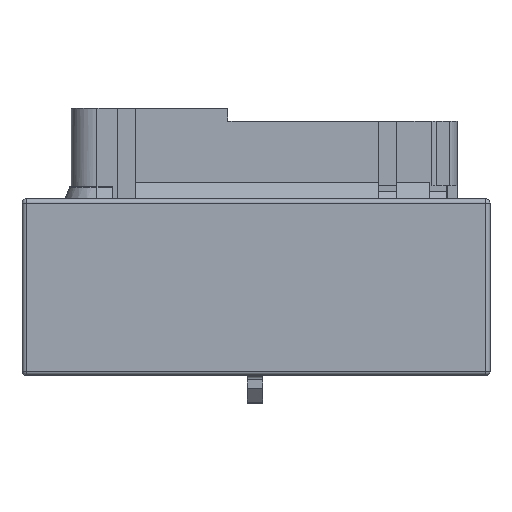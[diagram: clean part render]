
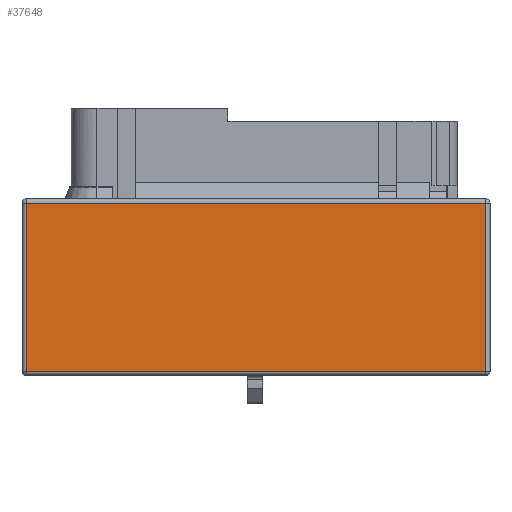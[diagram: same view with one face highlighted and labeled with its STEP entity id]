
A CAD part, front view. The second image highlights one B-rep face of the part: STEP entity #37648.
In plain terms, the highlighted planar face has unit normal (0, -1, 0).
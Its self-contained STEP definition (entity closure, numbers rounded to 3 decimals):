
#5080=DIRECTION('',(0.,0.,-1.));
#5081=VECTOR('',#5080,19.5);
#5082=CARTESIAN_POINT('',(25.7,-18.7,-11.));
#5083=LINE('',#5082,#5081);
#5084=DIRECTION('',(-1.,0.,0.));
#5085=VECTOR('',#5084,53.3);
#5086=CARTESIAN_POINT('',(25.7,-18.7,-30.5));
#5087=LINE('',#5086,#5085);
#5088=DIRECTION('',(0.,0.,1.));
#5089=VECTOR('',#5088,19.5);
#5090=CARTESIAN_POINT('',(-27.6,-18.7,-30.5));
#5091=LINE('',#5090,#5089);
#5092=DIRECTION('',(-1.,0.,0.));
#5093=VECTOR('',#5092,53.3);
#5094=CARTESIAN_POINT('',(25.7,-18.7,-11.));
#5095=LINE('',#5094,#5093);
#32008=CARTESIAN_POINT('',(25.7,-18.7,-11.));
#32009=CARTESIAN_POINT('',(25.7,-18.7,-30.5));
#32010=VERTEX_POINT('',#32008);
#32011=VERTEX_POINT('',#32009);
#32050=CARTESIAN_POINT('',(-27.6,-18.7,-30.5));
#32051=CARTESIAN_POINT('',(-27.6,-18.7,-11.));
#32052=VERTEX_POINT('',#32050);
#32053=VERTEX_POINT('',#32051);
#37634=CARTESIAN_POINT('',(-28.1,-18.7,-10.5));
#37635=DIRECTION('',(0.,-1.,0.));
#37636=DIRECTION('',(0.,0.,-1.));
#37637=AXIS2_PLACEMENT_3D('',#37634,#37635,#37636);
#37638=PLANE('',#37637);
#37639=ORIENTED_EDGE('',*,*,#37624,.T.);
#37641=ORIENTED_EDGE('',*,*,#37640,.T.);
#37643=ORIENTED_EDGE('',*,*,#37642,.T.);
#37645=ORIENTED_EDGE('',*,*,#37644,.F.);
#37646=EDGE_LOOP('',(#37639,#37641,#37643,#37645));
#37647=FACE_OUTER_BOUND('',#37646,.F.);
#37648=ADVANCED_FACE('',(#37647),#37638,.T.);
#37624=EDGE_CURVE('',#32010,#32011,#5083,.T.);
#37640=EDGE_CURVE('',#32011,#32052,#5087,.T.);
#37642=EDGE_CURVE('',#32052,#32053,#5091,.T.);
#37644=EDGE_CURVE('',#32010,#32053,#5095,.T.);
